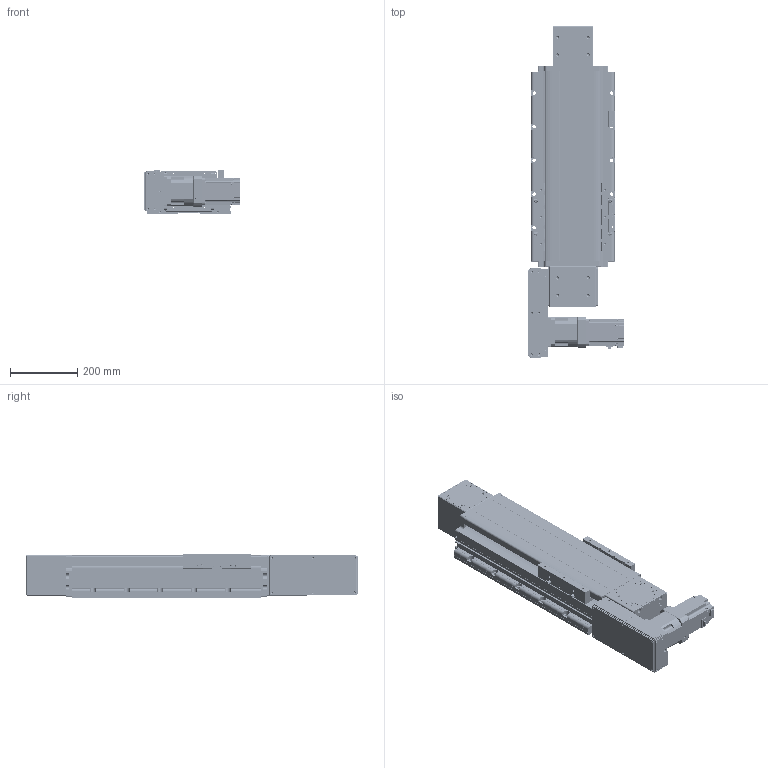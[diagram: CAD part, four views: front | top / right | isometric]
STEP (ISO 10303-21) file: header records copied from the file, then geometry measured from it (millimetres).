
FILE_DESCRIPTION(/* description */ (''),/* implementation_level */ '2;1');
FILE_NAME(/* name */ '\\192.168.0.160\disk1\HAN SHIN Master\B-설계부문\C-표준\B-2024년\BC02-표준도면\+로봇 개선표준도면\홈페이지 표준 도면\홈페이지 최종 작업 폴더\3D\HSB\HSB210\HSB210-R7G-N-0300-L.stp',/* time_stamp */ '2025-01-08T17:01:52+09:00',/* author */ ('user'),/* organization */ (''),/* preprocessor_version */ 'ST-DEVELOPER v18.1',/* originating_system */ 'Autodesk Inventor 2022',/* authorisation */ '');
FILE_SCHEMA (('AUTOMOTIVE_DESIGN { 1 0 10303 214 3 1 1 }'));
Products named in the file (37): HSB210-R7G-N-0500-L; HSB210 BASE - 2000ST; HSB210 FORNT HOUSUNG-Connecting Shaft; HSB160 SHAFT-1; HSB160 BEARING OVER; HSB210 FRONT COVER; REAR HOUSUNG-1-R1; HSB160 ARC COVER; HSB160 REAR SHAFT-2; REAR SHAFT--2; 6004ZZ; 6004ZZ Outer ring; 6004ZZ Shield1; 6004ZZ Inner ring; 6004ZZ Ball; 6004ZZ Shield2; UPCOVER; SIDE COVER; PGX90-H-1_3; HR200 SENSOR DOG; hsr_ftht_A-M6F_grease_nipple_joint; NIPPLE CAP(신규); SENSOR BRK(EE-SX674A); EE_SX674A; 6308ZZ; TENSION PLATE; HSB210 END COVER-1; HG90STOPPER - 27L; HSB210 TABLE (TEST); hg-kr73_; HSB210 L MOTOR PLATE ASSY; HG200 750W LR MOTOR PLATE-사출; 750W MOTOR PLATE; HR180,200-ACRYL COVER 2; HR180,200-ACRYL COVER; HG200-R L-BELT COVER; HR180,200-ACRYL COVER 3
Assembly tree (70 placements, depth 3):
  HSB210-R7G-N-0500-L
    HSB210 BASE - 2000ST
    HSB210 FRONT COVER  x2
    HSB210 FORNT HOUSUNG-Connecting Shaft
    HSB160 SHAFT-1
    HSB160 BEARING OVER
    HSB160 ARC COVER  x4
    REAR HOUSUNG-1-R1
    HSB160 REAR SHAFT-2
    REAR SHAFT--2
    6004ZZ  x2
      6004ZZ Outer ring
      6004ZZ Shield1
      6004ZZ Inner ring
      6004ZZ Ball
      6004ZZ Shield2
    TENSION PLATE  x2
    UPCOVER
    SIDE COVER  x2
    PGX90-H-1_3
    HG90STOPPER - 27L  x4
    HR200 SENSOR DOG
    SENSOR BRK(EE-SX674A)  x3
    EE_SX674A  x3
    NIPPLE CAP(신규)  x4
    hsr_ftht_A-M6F_grease_nipple_joint  x4
    6308ZZ  x2
    HSB210 END COVER-1
    HSB210 TABLE (TEST)
    hg-kr73_
    HSB210 L MOTOR PLATE ASSY
      HG200 750W LR MOTOR PLATE-사출
      750W MOTOR PLATE
      HR180,200-ACRYL COVER 2
      HR180,200-ACRYL COVER 3  x2
      HR180,200-ACRYL COVER
      HG200-R L-BELT COVER
Bounding box: 284.5 x 985.5 x 130 mm (x, y, z)
Volume: 10159568.4 mm3; surface area: 2349569 mm2
Topology: 131 solids, 133 shells, 7897 faces, 21933 edges, 14489 vertices
Faces by surface type: plane 5966, cylinder 1379, cone 384, sphere 84, torus 59, bspline 25
Full cylindrical faces by diameter (mm): 2.013 x2, 2.459 x48, 3 x8, 3.2 x4, 3.242 x54, 3.4 x20, 3.5 x6, 4.134 x2, 4.2 x16, 4.5 x36, 4.917 x36, 5 x56, 5.1 x1, 5.5 x13, 5.6 x4, 5.9 x4, 6 x15, 6.5 x9, 6.6 x8, 6.647 x40, 6.8 x9, 7 x20, 7.6 x4, 8 x13, 8.433 x2, 9 x46, 9.5 x7, 10 x5, 10.106 x10, 11 x20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
Entity records: 171268 total; most frequent: CARTESIAN_POINT 33424, ORIENTED_EDGE 28560, DIRECTION 27306, EDGE_CURVE 14280, LINE 11170, VECTOR 11170, VERTEX_POINT 9520, AXIS2_PLACEMENT_3D 8068
